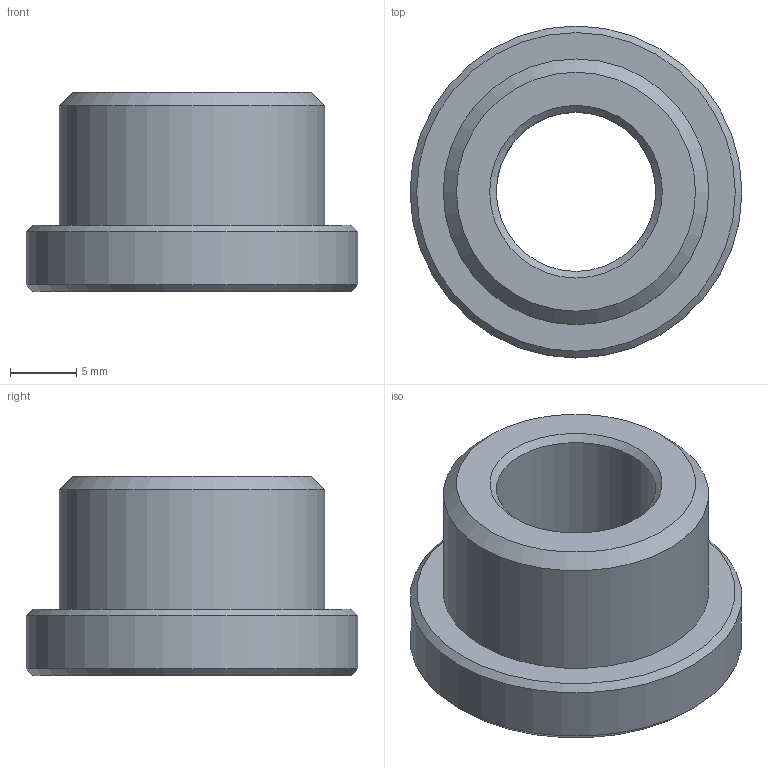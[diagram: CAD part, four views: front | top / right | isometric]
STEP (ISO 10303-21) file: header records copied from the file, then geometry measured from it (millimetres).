
FILE_DESCRIPTION(('STEP AP203'),'1');
FILE_NAME('D:/Diversos/Projetos/ININE/Documentos/Clientes/Top Fusion/Estudos/Bucha de redução.step','2017-03-10T14:43:50',(' '),(' '),'Spatial InterOp 3D',' ',' ');
FILE_SCHEMA(('CONFIG_CONTROL_DESIGN'));
Length unit declared in the file: millimetre
Products named in the file (1): 1
Bounding box: 25 x 25 x 15 mm (x, y, z)
Volume: 3840.1 mm3; surface area: 2235.9 mm2
Topology: 1 solids, 1 shells, 11 faces, 19 edges, 11 vertices
Faces by surface type: cone 5, plane 3, cylinder 3
Full cylindrical faces by diameter (mm): 12 x1, 20 x1, 25 x1
Entity records: 272 total; most frequent: DIRECTION 46, CARTESIAN_POINT 34, AXIS2_PLACEMENT_3D 23, EDGE_LOOP 22, ORIENTED_EDGE 22, FACE_OUTER_BOUND 14, ADVANCED_FACE 11, EDGE_CURVE 11
